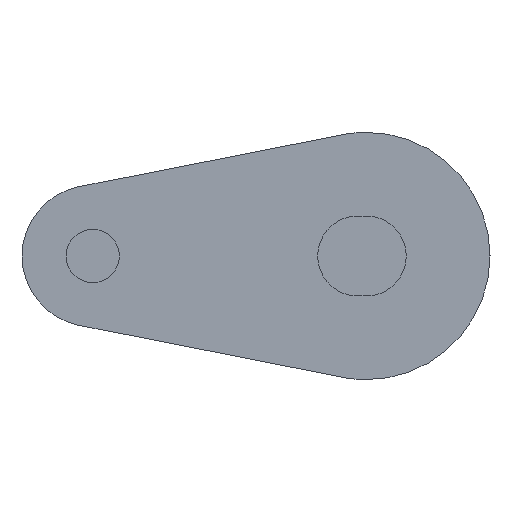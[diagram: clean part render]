
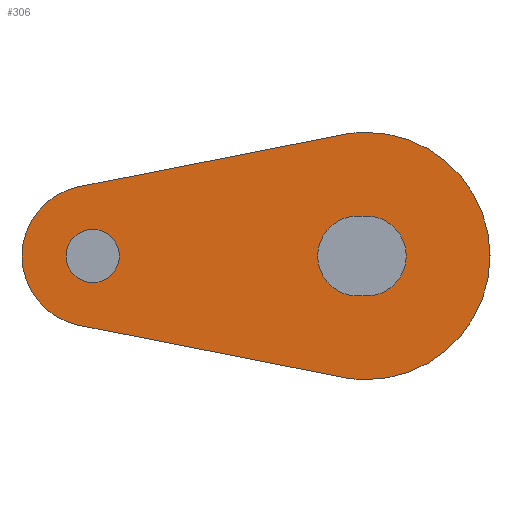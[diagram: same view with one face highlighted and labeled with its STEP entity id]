
A CAD part, left-side view. The second image highlights one B-rep face of the part: STEP entity #306.
In plain terms, the highlighted planar face has unit normal (-1, 0, 0).
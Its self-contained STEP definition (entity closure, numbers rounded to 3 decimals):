
#2 = LINE ( 'NONE', #452, #1035 ) ;
#7 = CIRCLE ( 'NONE', #722, 7. ) ;
#22 = VECTOR ( 'NONE', #490, 1000. ) ;
#23 = CIRCLE ( 'NONE', #716, 2.26 ) ;
#25 = LINE ( 'NONE', #486, #22 ) ;
#32 = VECTOR ( 'NONE', #58, 1000. ) ;
#41 = LINE ( 'NONE', #56, #32 ) ;
#56 = CARTESIAN_POINT ( 'NONE',  ( -457.5, 1.355, -6.868 ) ) ;
#58 = DIRECTION ( 'NONE',  ( 0., 0.981, 0.194 ) ) ;
#157 = DIRECTION ( 'NONE',  ( 0., 0., -1. ) ) ;
#158 = DIRECTION ( 'NONE',  ( -1., 0., 0. ) ) ;
#161 = CARTESIAN_POINT ( 'NONE',  ( -457.5, 15.5, 0. ) ) ;
#162 = PLANE ( 'NONE',  #714 ) ;
#189 = CARTESIAN_POINT ( 'NONE',  ( -457.5, 1.355, -6.868 ) ) ;
#214 = VERTEX_POINT ( 'NONE', #268 ) ;
#217 = VERTEX_POINT ( 'NONE', #282 ) ;
#218 = VERTEX_POINT ( 'NONE', #281 ) ;
#219 = VERTEX_POINT ( 'NONE', #280 ) ;
#227 = CARTESIAN_POINT ( 'NONE',  ( -457.5, 0.5, -2.26 ) ) ;
#232 = CARTESIAN_POINT ( 'NONE',  ( -457.5, 0., 2.26 ) ) ;
#235 = VERTEX_POINT ( 'NONE', #278 ) ;
#236 = VERTEX_POINT ( 'NONE', #277 ) ;
#242 = CARTESIAN_POINT ( 'NONE',  ( -457.5, 16.274, 3.924 ) ) ;
#248 = VERTEX_POINT ( 'NONE', #189 ) ;
#254 = CARTESIAN_POINT ( 'NONE',  ( -457.5, 0., -2.26 ) ) ;
#258 = VERTEX_POINT ( 'NONE', #254 ) ;
#259 = VERTEX_POINT ( 'NONE', #232 ) ;
#261 = VERTEX_POINT ( 'NONE', #227 ) ;
#264 = VERTEX_POINT ( 'NONE', #242 ) ;
#268 = CARTESIAN_POINT ( 'NONE',  ( -457.5, 1.355, 6.868 ) ) ;
#269 = VERTEX_POINT ( 'NONE', #295 ) ;
#277 = CARTESIAN_POINT ( 'NONE',  ( -457.5, 15.5, 1.51 ) ) ;
#278 = CARTESIAN_POINT ( 'NONE',  ( -457.5, 0.5, 2.26 ) ) ;
#280 = CARTESIAN_POINT ( 'NONE',  ( -457.5, 15.5, -1.51 ) ) ;
#281 = CARTESIAN_POINT ( 'NONE',  ( -457.5, 0., 7. ) ) ;
#282 = CARTESIAN_POINT ( 'NONE',  ( -457.5, 0., -7. ) ) ;
#295 = CARTESIAN_POINT ( 'NONE',  ( -457.5, 16.274, -3.924 ) ) ;
#306 = ADVANCED_FACE ( 'NONE', ( #782, #777, #775 ), #162, .T. ) ;
#362 = DIRECTION ( 'NONE',  ( 0., -0.981, 0.194 ) ) ;
#382 = DIRECTION ( 'NONE',  ( 0., 0., -1. ) ) ;
#395 = DIRECTION ( 'NONE',  ( 1., 0., 0. ) ) ;
#396 = CARTESIAN_POINT ( 'NONE',  ( -457.5, 16.274, 3.924 ) ) ;
#441 = DIRECTION ( 'NONE',  ( 0., 0., -1. ) ) ;
#442 = DIRECTION ( 'NONE',  ( 1., 0., 0. ) ) ;
#443 = DIRECTION ( 'NONE',  ( 0., -1., 0. ) ) ;
#451 = CARTESIAN_POINT ( 'NONE',  ( -457.5, 0., 0. ) ) ;
#452 = CARTESIAN_POINT ( 'NONE',  ( -457.5, 0.5, 2.26 ) ) ;
#459 = CARTESIAN_POINT ( 'NONE',  ( -457.5, 0., 0. ) ) ;
#465 = DIRECTION ( 'NONE',  ( 0., 0., -1. ) ) ;
#468 = DIRECTION ( 'NONE',  ( 1., 0., 0. ) ) ;
#471 = CARTESIAN_POINT ( 'NONE',  ( -457.5, 15.5, 0. ) ) ;
#473 = DIRECTION ( 'NONE',  ( 0., 0., -1. ) ) ;
#475 = DIRECTION ( 'NONE',  ( 1., 0., 0. ) ) ;
#483 = CARTESIAN_POINT ( 'NONE',  ( -457.5, 0.5, 0. ) ) ;
#485 = DIRECTION ( 'NONE',  ( 1., 0., 0. ) ) ;
#486 = CARTESIAN_POINT ( 'NONE',  ( -457.5, 0.5, -2.26 ) ) ;
#487 = DIRECTION ( 'NONE',  ( 0., 0., -1. ) ) ;
#490 = DIRECTION ( 'NONE',  ( 0., 1., 0. ) ) ;
#499 = CARTESIAN_POINT ( 'NONE',  ( -457.5, 0., 0. ) ) ;
#518 = DIRECTION ( 'NONE',  ( 0., 0., -1. ) ) ;
#519 = DIRECTION ( 'NONE',  ( 1., 0., 0. ) ) ;
#526 = CARTESIAN_POINT ( 'NONE',  ( -457.5, 15.5, 0. ) ) ;
#536 = DIRECTION ( 'NONE',  ( 0., 0., -1. ) ) ;
#537 = DIRECTION ( 'NONE',  ( 1., 0., 0. ) ) ;
#544 = CARTESIAN_POINT ( 'NONE',  ( -457.5, 0., 0. ) ) ;
#567 = DIRECTION ( 'NONE',  ( 0., 0., -1. ) ) ;
#568 = DIRECTION ( 'NONE',  ( 1., 0., 0. ) ) ;
#569 = CARTESIAN_POINT ( 'NONE',  ( -457.5, 15.5, 0. ) ) ;
#582 = AXIS2_PLACEMENT_3D ( 'NONE', #459, #442, #441 ) ;
#588 = EDGE_CURVE ( 'NONE', #248, #269, #41, .T. ) ;
#590 = AXIS2_PLACEMENT_3D ( 'NONE', #499, #475, #473 ) ;
#592 = EDGE_CURVE ( 'NONE', #261, #235, #23, .T. ) ;
#595 = EDGE_CURVE ( 'NONE', #258, #261, #25, .T. ) ;
#597 = AXIS2_PLACEMENT_3D ( 'NONE', #471, #468, #465 ) ;
#607 = EDGE_CURVE ( 'NONE', #214, #218, #7, .T. ) ;
#623 = EDGE_CURVE ( 'NONE', #269, #264, #1034, .T. ) ;
#627 = EDGE_CURVE ( 'NONE', #235, #259, #2, .T. ) ;
#628 = AXIS2_PLACEMENT_3D ( 'NONE', #451, #395, #382 ) ;
#634 = EDGE_CURVE ( 'NONE', #259, #258, #1032, .T. ) ;
#635 = AXIS2_PLACEMENT_3D ( 'NONE', #569, #568, #567 ) ;
#647 = EDGE_CURVE ( 'NONE', #264, #214, #1031, .T. ) ;
#667 = EDGE_CURVE ( 'NONE', #236, #219, #1009, .T. ) ;
#681 = EDGE_CURVE ( 'NONE', #219, #236, #1002, .T. ) ;
#703 = EDGE_CURVE ( 'NONE', #217, #248, #1054, .T. ) ;
#713 = AXIS2_PLACEMENT_3D ( 'NONE', #526, #519, #518 ) ;
#714 = AXIS2_PLACEMENT_3D ( 'NONE', #161, #158, #157 ) ;
#716 = AXIS2_PLACEMENT_3D ( 'NONE', #483, #485, #487 ) ;
#719 = EDGE_CURVE ( 'NONE', #218, #217, #1053, .T. ) ;
#722 = AXIS2_PLACEMENT_3D ( 'NONE', #544, #537, #536 ) ;
#775 = FACE_OUTER_BOUND ( 'NONE', #992, .T. ) ;
#777 = FACE_BOUND ( 'NONE', #942, .T. ) ;
#782 = FACE_BOUND ( 'NONE', #943, .T. ) ;
#926 = ORIENTED_EDGE ( 'NONE', *, *, #623, .F. ) ;
#927 = ORIENTED_EDGE ( 'NONE', *, *, #588, .F. ) ;
#928 = ORIENTED_EDGE ( 'NONE', *, *, #703, .F. ) ;
#942 = EDGE_LOOP ( 'NONE', ( #962, #963 ) ) ;
#943 = EDGE_LOOP ( 'NONE', ( #946, #947, #971, #961 ) ) ;
#946 = ORIENTED_EDGE ( 'NONE', *, *, #592, .T. ) ;
#947 = ORIENTED_EDGE ( 'NONE', *, *, #627, .T. ) ;
#961 = ORIENTED_EDGE ( 'NONE', *, *, #595, .T. ) ;
#962 = ORIENTED_EDGE ( 'NONE', *, *, #681, .T. ) ;
#963 = ORIENTED_EDGE ( 'NONE', *, *, #667, .T. ) ;
#967 = ORIENTED_EDGE ( 'NONE', *, *, #719, .F. ) ;
#968 = ORIENTED_EDGE ( 'NONE', *, *, #607, .F. ) ;
#969 = ORIENTED_EDGE ( 'NONE', *, *, #647, .F. ) ;
#971 = ORIENTED_EDGE ( 'NONE', *, *, #634, .T. ) ;
#992 = EDGE_LOOP ( 'NONE', ( #926, #927, #928, #967, #968, #969 ) ) ;
#1002 = CIRCLE ( 'NONE', #713, 1.51 ) ;
#1009 = CIRCLE ( 'NONE', #635, 1.51 ) ;
#1031 = LINE ( 'NONE', #396, #1033 ) ;
#1032 = CIRCLE ( 'NONE', #628, 2.26 ) ;
#1033 = VECTOR ( 'NONE', #362, 1000. ) ;
#1034 = CIRCLE ( 'NONE', #597, 4. ) ;
#1035 = VECTOR ( 'NONE', #443, 1000. ) ;
#1053 = CIRCLE ( 'NONE', #582, 7. ) ;
#1054 = CIRCLE ( 'NONE', #590, 7. ) ;
